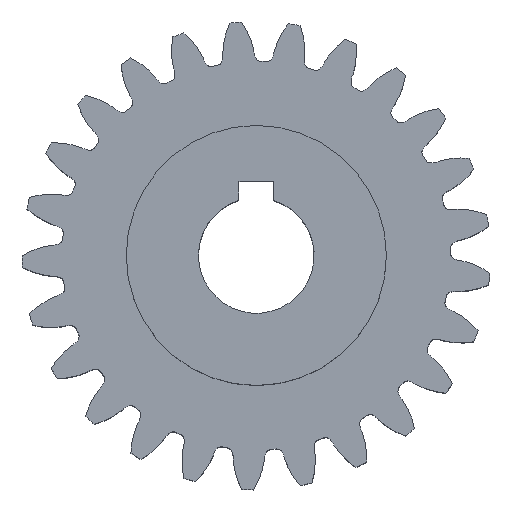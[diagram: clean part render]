
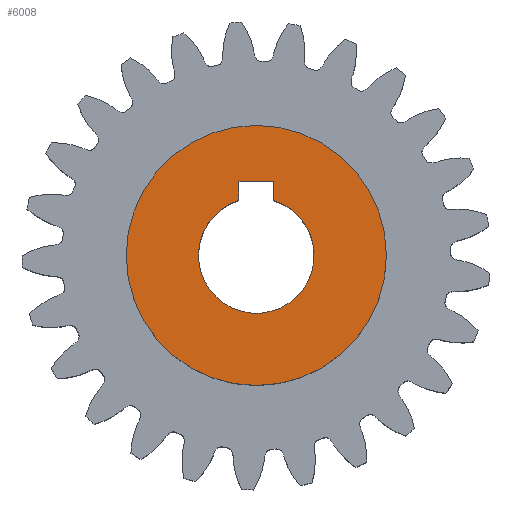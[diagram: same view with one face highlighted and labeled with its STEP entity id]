
A CAD part, top view. The second image highlights one B-rep face of the part: STEP entity #6008.
In plain terms, the highlighted planar face has unit normal (0, 0, 1).
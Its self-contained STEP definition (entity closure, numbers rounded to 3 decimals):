
#121 = VECTOR ( 'NONE', #6490, 1000. ) ;
#146 = ORIENTED_EDGE ( 'NONE', *, *, #5187, .F. ) ;
#501 = DIRECTION ( 'NONE',  ( 0., 0., -1. ) ) ;
#1011 = CIRCLE ( 'NONE', #4544, 10. ) ;
#1141 = FACE_OUTER_BOUND ( 'NONE', #7551, .T. ) ;
#1395 = VERTEX_POINT ( 'NONE', #3522 ) ;
#1436 = VERTEX_POINT ( 'NONE', #5863 ) ;
#1449 = CARTESIAN_POINT ( 'NONE',  ( 0., -22.5, 45. ) ) ;
#1531 = LINE ( 'NONE', #7003, #2163 ) ;
#1546 = ORIENTED_EDGE ( 'NONE', *, *, #2122, .F. ) ;
#1648 = DIRECTION ( 'NONE',  ( 0., -1., 0. ) ) ;
#1836 = CARTESIAN_POINT ( 'NONE',  ( 0., 0., 45. ) ) ;
#1850 = EDGE_CURVE ( 'NONE', #2145, #6059, #6105, .T. ) ;
#1861 = ORIENTED_EDGE ( 'NONE', *, *, #7447, .F. ) ;
#2069 = ORIENTED_EDGE ( 'NONE', *, *, #1850, .F. ) ;
#2122 = EDGE_CURVE ( 'NONE', #6059, #2145, #6244, .T. ) ;
#2145 = VERTEX_POINT ( 'NONE', #1449 ) ;
#2163 = VECTOR ( 'NONE', #1648, 1000. ) ;
#2265 = FACE_BOUND ( 'NONE', #5261, .T. ) ;
#2582 = CARTESIAN_POINT ( 'NONE',  ( 3., 9.539, 45. ) ) ;
#2649 = DIRECTION ( 'NONE',  ( 0., 1., 0. ) ) ;
#2985 = LINE ( 'NONE', #6519, #5419 ) ;
#3025 = VERTEX_POINT ( 'NONE', #2582 ) ;
#3061 = DIRECTION ( 'NONE',  ( 1., 0., 0. ) ) ;
#3146 = DIRECTION ( 'NONE',  ( 0., 0., -1. ) ) ;
#3186 = CARTESIAN_POINT ( 'NONE',  ( 0., 0., 45. ) ) ;
#3472 = CARTESIAN_POINT ( 'NONE',  ( 0., 0., 45. ) ) ;
#3522 = CARTESIAN_POINT ( 'NONE',  ( -3., 12.8, 45. ) ) ;
#3888 = CARTESIAN_POINT ( 'NONE',  ( -3., 9.539, 45. ) ) ;
#4544 = AXIS2_PLACEMENT_3D ( 'NONE', #1836, #6689, #3061 ) ;
#4612 = DIRECTION ( 'NONE',  ( 0., 1., 0. ) ) ;
#4655 = DIRECTION ( 'NONE',  ( 0., 0., -1. ) ) ;
#5187 = EDGE_CURVE ( 'NONE', #1395, #6377, #1531, .T. ) ;
#5233 = CARTESIAN_POINT ( 'NONE',  ( 0., 0., 45. ) ) ;
#5261 = EDGE_LOOP ( 'NONE', ( #146, #6594, #1861, #7496 ) ) ;
#5347 = CARTESIAN_POINT ( 'NONE',  ( 3., 9.539, 45. ) ) ;
#5374 = EDGE_CURVE ( 'NONE', #1436, #1395, #2985, .T. ) ;
#5384 = EDGE_CURVE ( 'NONE', #6377, #3025, #1011, .T. ) ;
#5419 = VECTOR ( 'NONE', #5997, 1000. ) ;
#5863 = CARTESIAN_POINT ( 'NONE',  ( 3., 12.8, 45. ) ) ;
#5997 = DIRECTION ( 'NONE',  ( -1., 0., 0. ) ) ;
#6008 = ADVANCED_FACE ( 'NONE', ( #1141, #2265 ), #6492, .F. ) ;
#6059 = VERTEX_POINT ( 'NONE', #7741 ) ;
#6105 = CIRCLE ( 'NONE', #7015, 22.5 ) ;
#6244 = CIRCLE ( 'NONE', #6758, 22.5 ) ;
#6288 = AXIS2_PLACEMENT_3D ( 'NONE', #5233, #501, #7016 ) ;
#6377 = VERTEX_POINT ( 'NONE', #3888 ) ;
#6490 = DIRECTION ( 'NONE',  ( 0., 1., 0. ) ) ;
#6492 = PLANE ( 'NONE',  #6288 ) ;
#6519 = CARTESIAN_POINT ( 'NONE',  ( 3., 12.8, 45. ) ) ;
#6594 = ORIENTED_EDGE ( 'NONE', *, *, #5374, .F. ) ;
#6689 = DIRECTION ( 'NONE',  ( 0., 0., 1. ) ) ;
#6758 = AXIS2_PLACEMENT_3D ( 'NONE', #3186, #3146, #2649 ) ;
#7003 = CARTESIAN_POINT ( 'NONE',  ( -3., 12.8, 45. ) ) ;
#7015 = AXIS2_PLACEMENT_3D ( 'NONE', #3472, #4655, #4612 ) ;
#7016 = DIRECTION ( 'NONE',  ( 0., 1., 0. ) ) ;
#7100 = LINE ( 'NONE', #5347, #121 ) ;
#7447 = EDGE_CURVE ( 'NONE', #3025, #1436, #7100, .T. ) ;
#7496 = ORIENTED_EDGE ( 'NONE', *, *, #5384, .F. ) ;
#7551 = EDGE_LOOP ( 'NONE', ( #1546, #2069 ) ) ;
#7741 = CARTESIAN_POINT ( 'NONE',  ( 0., 22.5, 45. ) ) ;
